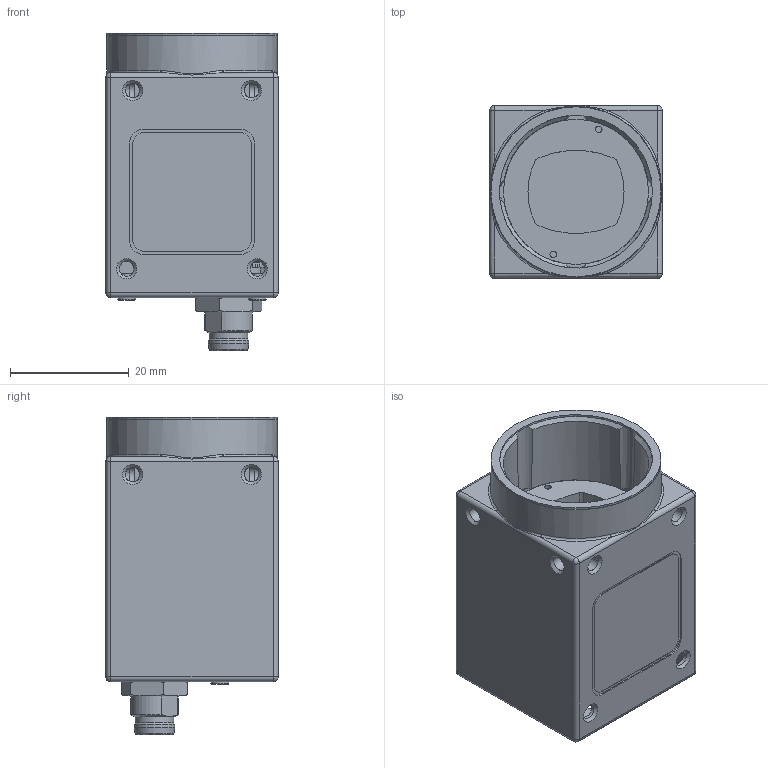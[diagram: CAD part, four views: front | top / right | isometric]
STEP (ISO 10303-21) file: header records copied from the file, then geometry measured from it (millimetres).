
FILE_DESCRIPTION( ( 'Unknown' ), '1' );
FILE_NAME( 'C:/Users/rih/Desktop/CAD-MarCom/11165900_VCXU-53M.stp', '14.10.2014', ( 'Unknown' ), ( 'Unknown' ), 'PSStep 15.0.49', 'Unknown', ' ' );
FILE_SCHEMA( ( 'AUTOMOTIVE_DESIGN { 1 0 10303 214 1 1 1 1 }' ) );
Length unit declared in the file: millimetre
Products named in the file (3): 11104603
Bounding box: 29 x 29 x 53.35 mm (x, y, z)
Volume: 10463 mm3; surface area: 15927.2 mm2
Topology: 3 solids, 10 shells, 2741 faces, 7670 edges, 4964 vertices
Faces by surface type: plane 1957, cylinder 634, cone 71, torus 27, sphere 24, bspline 24, extrusion 4
Full cylindrical faces by diameter (mm): 0.217 x1, 0.6 x16, 0.7 x1, 0.9 x1, 1.1 x2, 1.4 x4, 1.567 x2, 1.6 x2, 1.9 x4, 2.459 x10, 3 x4, 6.5 x1, 6.9 x1, 8.4 x1, 9 x1, 9.4 x1, 24.4 x1, 25.7 x1, 26 x1, 28.6 x1, 28.7 x1
Entity records: 114979 total; most frequent: CARTESIAN_POINT 19514, ORIENTED_EDGE 14902, DIRECTION 14397, EDGE_CURVE 7451, VECTOR 5301, LINE 5297, VERTEX_POINT 4893, AXIS2_PLACEMENT_3D 4548
